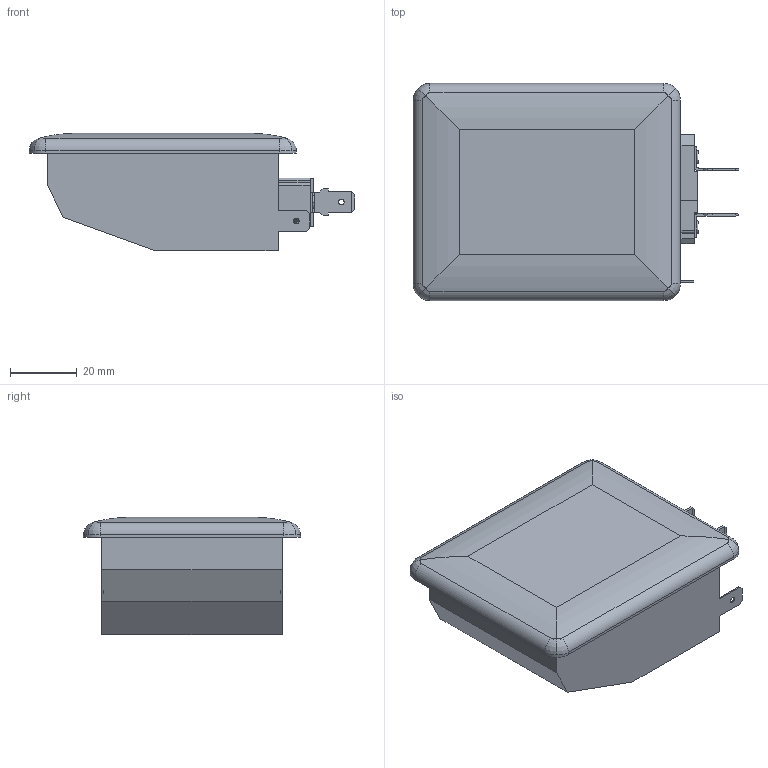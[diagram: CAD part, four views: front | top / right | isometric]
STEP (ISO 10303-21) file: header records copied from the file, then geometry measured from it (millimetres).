
FILE_DESCRIPTION(('CAx-IF Rec.Pracs.---Model Styling and Organization---1.2---2011-12-15','CAx-IF Rec.Pracs.---Geometric and Assembly Validation Properties---4.1---2014-06-16','CAx-IF Rec.Pracs.---PMI Polyline Presentation---2.0---2013-05-24'),'2;1');
FILE_NAME('01BYM08Y04.stp','2020-10-27T09:14:17+01:00',(''),(''),'STEP Interface 4.3 by CT CoreTechnologie','3D_Evolution4.3 by CT CoreTechnologie','');
FILE_SCHEMA(('AP203_CONFIGURATION_CONTROLLED_3D_DESIGN_OF_MECHANICAL_PARTS_AND_ASSEMBLIES_MIM_LF'));
Length unit declared in the file: millimetre
Products named in the file (10): 01BYM08Y04; 019-P03-03; 00Z-Z0H-01; 01B-M05-0D; 01C-20P-04; 016-N0J-01-oa1; 016-N0J-01; 016-N0N-04-oa0; 016-N0N-04; 01C-20U-02
Assembly tree (9 placements, depth 3):
  01BYM08Y04
    019-P03-03
    00Z-Z0H-01
    01B-M05-0D
    01C-20P-04
      016-N0J-01-oa1
      016-N0J-01
      016-N0N-04-oa0
      016-N0N-04
      01C-20U-02
Bounding box: 97.45 x 65 x 35.15 mm (x, y, z)
Volume: 50827.7 mm3; surface area: 41389.4 mm2
Topology: 8 solids, 8 shells, 1211 faces, 3189 edges, 2080 vertices
Faces by surface type: plane 661, cylinder 286, bspline 264
Entity records: 110734 total; most frequent: CARTESIAN_POINT 27573, PROPERTY_DEFINITION 7525, ORIENTED_EDGE 6354, DIRECTION 5681, REPRESENTATION 3768, GENERAL_PROPERTY 3768, PROPERTY_DEFINITION_REPRESENTATION 3768, GENERAL_PROPERTY_ASSOCIATION 3768
